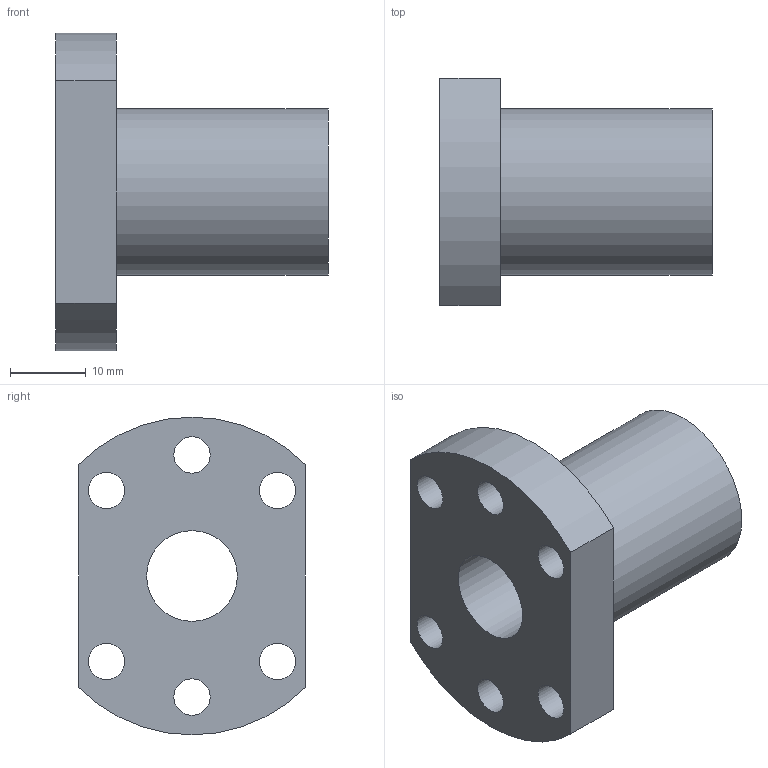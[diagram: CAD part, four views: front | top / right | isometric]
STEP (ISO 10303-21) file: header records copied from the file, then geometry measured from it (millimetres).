
FILE_DESCRIPTION(/* description */ (''),/* implementation_level */ '2;1');
FILE_NAME(/* name */ 'C:\Users\David Dillkötter\ownCloud\Kamp und Kötter\Artikel\Kugelumlaufspindel SFU1204\02_STEP-Dateien\Spindelmutter-SFU1204-MJ2020.stp',/* time_stamp */ '2020-08-25T16:16:17+02:00',/* author */ ('David Dillkötter'),/* organization */ (''),/* preprocessor_version */ 'ST-DEVELOPER v18.1',/* originating_system */ 'Autodesk Inventor 2021',/* authorisation */ '');
FILE_SCHEMA (('AUTOMOTIVE_DESIGN { 1 0 10303 214 3 1 1 }'));
Length unit declared in the file: millimetre
Products named in the file (1): Spindelmutter-SFU1204-MJ2020
Bounding box: 36 x 30 x 42 mm (x, y, z)
Volume: 14844.7 mm3; surface area: 6863.1 mm2
Topology: 1 solids, 1 shells, 15 faces, 36 edges, 24 vertices
Faces by surface type: cylinder 10, plane 5
Full cylindrical faces by diameter (mm): 4.8 x6, 12 x1, 22 x1
Entity records: 519 total; most frequent: DIRECTION 88, CARTESIAN_POINT 76, ORIENTED_EDGE 72, EDGE_CURVE 36, AXIS2_PLACEMENT_3D 36, EDGE_LOOP 30, VERTEX_POINT 24, CIRCLE 20
